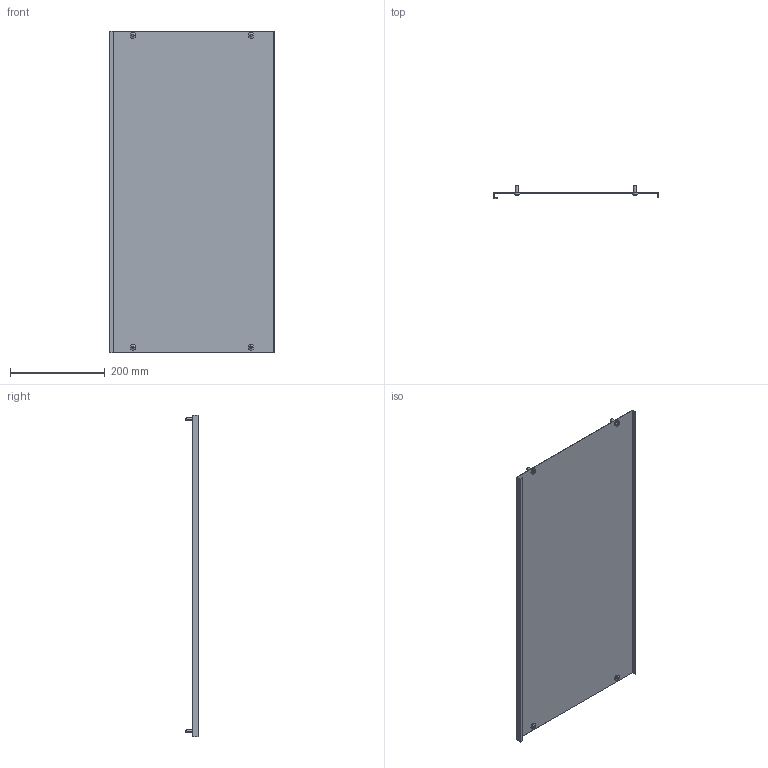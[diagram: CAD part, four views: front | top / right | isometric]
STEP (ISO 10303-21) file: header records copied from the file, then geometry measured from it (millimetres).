
FILE_DESCRIPTION (( 'STEP AP214' ), '1' );
FILE_NAME ('FO-00-PVS-035-080 Ïëàñòðîí ãëóõîé âíóòðåííèé 350õ800.STEP', '2025-09-30T07:44:35', ( '' ), ( '' ), 'SwSTEP 2.0', 'SolidWorks 2023', '' );
FILE_SCHEMA (( 'AUTOMOTIVE_DESIGN' ));
Length unit declared in the file: millimetre
Products named in the file (3): FO-00-PVS-035-080 Пластрон глухой внутренний 350х800; Винт M6x16 035-080 IEK
Assembly tree (3 placements, depth 2):
  FO-00-PVS-035-080 Пластрон глухой внутренний 350х800
    FO-00-PVS-035-080 Пластрон глухой внутренний 350х800
    Винт M6x16 035-080 IEK  x2
Bounding box: 348 x 27 x 679 mm (x, y, z)
Volume: 383763.5 mm3; surface area: 513433.5 mm2
Topology: 5 solids, 5 shells, 150 faces, 392 edges, 256 vertices
Faces by surface type: cylinder 88, plane 42, cone 12, bspline 8
Entity records: 3233 total; most frequent: CARTESIAN_POINT 724, ORIENTED_EDGE 512, DIRECTION 500, EDGE_CURVE 256, AXIS2_PLACEMENT_3D 180, VERTEX_POINT 168, LINE 140, VECTOR 140
